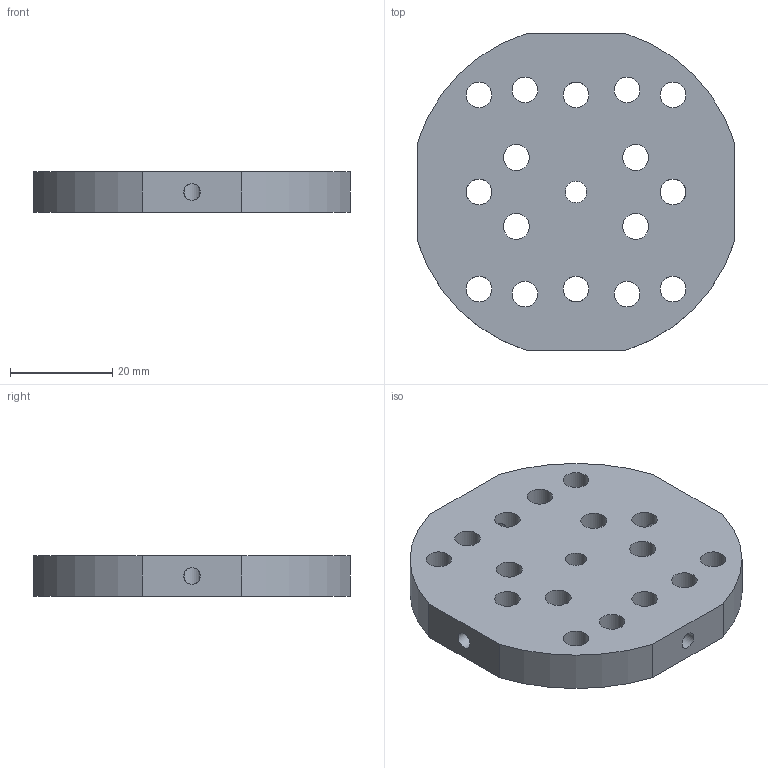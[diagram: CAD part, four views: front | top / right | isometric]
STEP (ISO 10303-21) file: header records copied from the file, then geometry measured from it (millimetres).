
FILE_DESCRIPTION(/* description */ ('STEP AP242','CAx-IF Rec.Pracs.---Representation and Presentation of Product Manufacturing Information (PMI)---4.0---2014-10-13','CAx-IF Rec.Pracs.---3D Tessellated Geometry---0.4---2014-09-14','2;1'),/* implementation_level */ '2;1');
FILE_NAME(/* name */ '26 - Harmonic Vixen plug - Harmonic Vixen plug',/* time_stamp */ '2024-12-03T19:58:33Z',/* author */ (''),/* organization */ (''),/* preprocessor_version */ 'ST-DEVELOPER v20',/* originating_system */ 'ONSHAPE BY PTC INC, 1.190',/* authorisation */ ' ');
FILE_SCHEMA (('AP242_MANAGED_MODEL_BASED_3D_ENGINEERING_MIM_LF { 1 0 10303 442 1 1 4 }'));
Length unit declared in the file: metre
Products named in the file (1): Harmonic Vixen plug
Bounding box: 62 x 62 x 8 mm (x, y, z)
Volume: 22009.6 mm3; surface area: 10150.1 mm2
Topology: 1 solids, 1 shells, 47 faces, 129 edges, 87 vertices
Faces by surface type: cylinder 29, plane 10, cone 8
Full cylindrical faces by diameter (mm): 3.3 x4, 4.2 x1, 5 x12, 5.1 x4, 10 x4
Entity records: 1464 total; most frequent: CARTESIAN_POINT 292, DIRECTION 236, ORIENTED_EDGE 188, EDGE_LOOP 118, FACE_BOUND 118, AXIS2_PLACEMENT_3D 110, EDGE_CURVE 94, VERTEX_POINT 78
